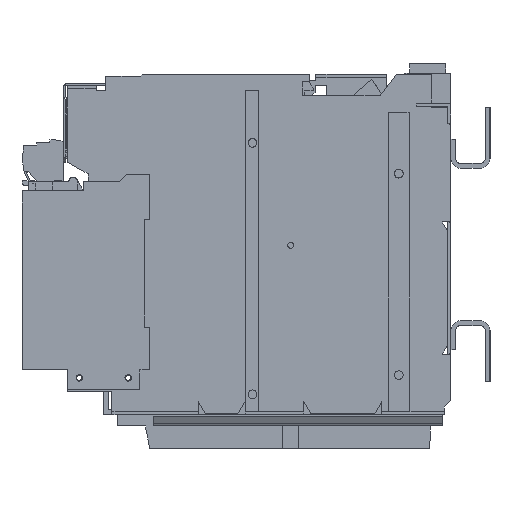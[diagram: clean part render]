
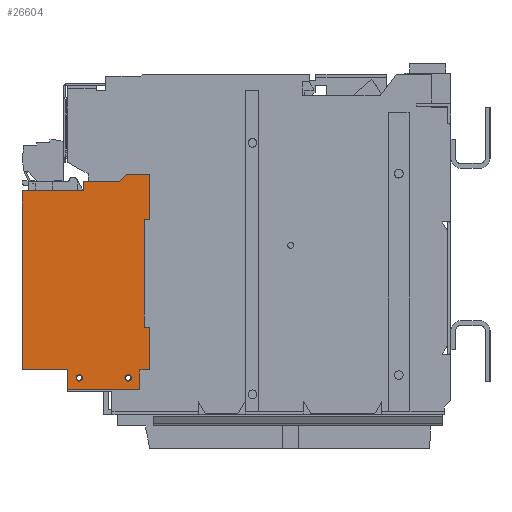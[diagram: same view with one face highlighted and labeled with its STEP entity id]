
A CAD part, left-side view. The second image highlights one B-rep face of the part: STEP entity #26604.
In plain terms, the highlighted planar face has unit normal (-1, 0, 0) as drawn and (0, 0, 1) by its records, which use the part's own axes.
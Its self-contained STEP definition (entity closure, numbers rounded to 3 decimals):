
#25985=DIRECTION('',(0.,-1.,0.));
#25986=VECTOR('',#25985,62.5);
#25987=CARTESIAN_POINT('',(92.95,62.5,0.));
#25988=LINE('',#25987,#25986);
#25989=DIRECTION('',(1.,0.,0.));
#25990=VECTOR('',#25989,10.);
#25991=CARTESIAN_POINT('',(92.95,0.,0.));
#25992=LINE('',#25991,#25990);
#25993=DIRECTION('',(0.,-1.,0.));
#25994=VECTOR('',#25993,37.);
#25995=CARTESIAN_POINT('',(102.95,0.,0.));
#25996=LINE('',#25995,#25994);
#25997=DIRECTION('',(0.722,-0.692,0.));
#25998=VECTOR('',#25997,10.114);
#25999=CARTESIAN_POINT('',(102.95,-37.,0.));
#26000=LINE('',#25999,#25998);
#26001=DIRECTION('',(0.,-1.,0.));
#26002=VECTOR('',#26001,24.);
#26003=CARTESIAN_POINT('',(110.25,-44.,0.));
#26004=LINE('',#26003,#26002);
#26005=DIRECTION('',(-1.,0.,0.));
#26006=VECTOR('',#26005,46.5);
#26007=CARTESIAN_POINT('',(110.25,-68.,0.));
#26008=LINE('',#26007,#26006);
#26009=DIRECTION('',(0.,1.,0.));
#26010=VECTOR('',#26009,5.5);
#26011=CARTESIAN_POINT('',(63.75,-68.,0.));
#26012=LINE('',#26011,#26010);
#26013=DIRECTION('',(-1.,0.,0.));
#26014=VECTOR('',#26013,110.);
#26015=CARTESIAN_POINT('',(63.75,-62.5,0.));
#26016=LINE('',#26015,#26014);
#26017=DIRECTION('',(0.,-1.,0.));
#26018=VECTOR('',#26017,5.5);
#26019=CARTESIAN_POINT('',(-46.25,-62.5,0.));
#26020=LINE('',#26019,#26018);
#26021=DIRECTION('',(-1.,0.,0.));
#26022=VECTOR('',#26021,43.8);
#26023=CARTESIAN_POINT('',(-46.25,-68.,0.));
#26024=LINE('',#26023,#26022);
#26025=DIRECTION('',(0.,1.,0.));
#26026=VECTOR('',#26025,10.);
#26027=CARTESIAN_POINT('',(-90.05,-68.,0.));
#26028=LINE('',#26027,#26026);
#26029=DIRECTION('',(-1.,0.,0.));
#26030=VECTOR('',#26029,20.2);
#26031=CARTESIAN_POINT('',(-90.05,-58.,0.));
#26032=LINE('',#26031,#26030);
#26033=DIRECTION('',(0.,1.,0.));
#26034=VECTOR('',#26033,74.);
#26035=CARTESIAN_POINT('',(-110.25,-58.,0.));
#26036=LINE('',#26035,#26034);
#26037=DIRECTION('',(1.,0.,0.));
#26038=VECTOR('',#26037,20.2);
#26039=CARTESIAN_POINT('',(-110.25,16.,0.));
#26040=LINE('',#26039,#26038);
#26041=DIRECTION('',(0.,1.,0.));
#26042=VECTOR('',#26041,46.5);
#26043=CARTESIAN_POINT('',(-90.05,16.,0.));
#26044=LINE('',#26043,#26042);
#26045=DIRECTION('',(1.,0.,0.));
#26046=VECTOR('',#26045,183.);
#26047=CARTESIAN_POINT('',(-90.05,62.5,0.));
#26048=LINE('',#26047,#26046);
#26049=CARTESIAN_POINT('',(-98.25,4.,0.));
#26050=DIRECTION('',(0.,0.,-1.));
#26051=DIRECTION('',(-1.,0.,0.));
#26052=AXIS2_PLACEMENT_3D('',#26049,#26050,#26051);
#26054=CARTESIAN_POINT('',(-98.25,4.,0.));
#26055=DIRECTION('',(0.,0.,-1.));
#26056=DIRECTION('',(1.,0.,0.));
#26057=AXIS2_PLACEMENT_3D('',#26054,#26055,#26056);
#26059=CARTESIAN_POINT('',(-98.25,-46.,0.));
#26060=DIRECTION('',(0.,0.,-1.));
#26061=DIRECTION('',(-1.,0.,0.));
#26062=AXIS2_PLACEMENT_3D('',#26059,#26060,#26061);
#26064=CARTESIAN_POINT('',(-98.25,-46.,0.));
#26065=DIRECTION('',(0.,0.,-1.));
#26066=DIRECTION('',(1.,0.,0.));
#26067=AXIS2_PLACEMENT_3D('',#26064,#26065,#26066);
#26413=CARTESIAN_POINT('',(92.95,62.5,0.));
#26414=CARTESIAN_POINT('',(92.95,0.,0.));
#26415=VERTEX_POINT('',#26413);
#26416=VERTEX_POINT('',#26414);
#26417=CARTESIAN_POINT('',(102.95,0.,0.));
#26418=VERTEX_POINT('',#26417);
#26419=CARTESIAN_POINT('',(102.95,-37.,0.));
#26420=VERTEX_POINT('',#26419);
#26421=CARTESIAN_POINT('',(110.25,-44.,0.));
#26422=VERTEX_POINT('',#26421);
#26423=CARTESIAN_POINT('',(110.25,-68.,0.));
#26424=VERTEX_POINT('',#26423);
#26425=CARTESIAN_POINT('',(63.75,-68.,0.));
#26426=VERTEX_POINT('',#26425);
#26427=CARTESIAN_POINT('',(63.75,-62.5,0.));
#26428=VERTEX_POINT('',#26427);
#26429=CARTESIAN_POINT('',(-46.25,-62.5,0.));
#26430=VERTEX_POINT('',#26429);
#26431=CARTESIAN_POINT('',(-46.25,-68.,0.));
#26432=VERTEX_POINT('',#26431);
#26433=CARTESIAN_POINT('',(-90.05,-68.,0.));
#26434=VERTEX_POINT('',#26433);
#26435=CARTESIAN_POINT('',(-90.05,-58.,0.));
#26436=VERTEX_POINT('',#26435);
#26437=CARTESIAN_POINT('',(-110.25,-58.,0.));
#26438=VERTEX_POINT('',#26437);
#26439=CARTESIAN_POINT('',(-110.25,16.,0.));
#26440=VERTEX_POINT('',#26439);
#26441=CARTESIAN_POINT('',(-90.05,16.,0.));
#26442=VERTEX_POINT('',#26441);
#26443=CARTESIAN_POINT('',(-90.05,62.5,0.));
#26444=VERTEX_POINT('',#26443);
#26537=CARTESIAN_POINT('',(-101.5,4.,0.));
#26538=CARTESIAN_POINT('',(-95.,4.,0.));
#26539=VERTEX_POINT('',#26537);
#26540=VERTEX_POINT('',#26538);
#26541=CARTESIAN_POINT('',(-101.5,-46.,0.));
#26542=CARTESIAN_POINT('',(-95.,-46.,0.));
#26543=VERTEX_POINT('',#26541);
#26544=VERTEX_POINT('',#26542);
#26553=CARTESIAN_POINT('',(0.,0.,0.));
#26554=DIRECTION('',(0.,0.,-1.));
#26555=DIRECTION('',(0.,1.,0.));
#26556=AXIS2_PLACEMENT_3D('',#26553,#26554,#26555);
#26557=PLANE('',#26556);
#26559=ORIENTED_EDGE('',*,*,#26558,.T.);
#26561=ORIENTED_EDGE('',*,*,#26560,.T.);
#26563=ORIENTED_EDGE('',*,*,#26562,.T.);
#26565=ORIENTED_EDGE('',*,*,#26564,.T.);
#26567=ORIENTED_EDGE('',*,*,#26566,.T.);
#26569=ORIENTED_EDGE('',*,*,#26568,.T.);
#26571=ORIENTED_EDGE('',*,*,#26570,.T.);
#26573=ORIENTED_EDGE('',*,*,#26572,.T.);
#26575=ORIENTED_EDGE('',*,*,#26574,.T.);
#26577=ORIENTED_EDGE('',*,*,#26576,.T.);
#26579=ORIENTED_EDGE('',*,*,#26578,.T.);
#26581=ORIENTED_EDGE('',*,*,#26580,.T.);
#26583=ORIENTED_EDGE('',*,*,#26582,.T.);
#26585=ORIENTED_EDGE('',*,*,#26584,.T.);
#26587=ORIENTED_EDGE('',*,*,#26586,.T.);
#26589=ORIENTED_EDGE('',*,*,#26588,.T.);
#26590=EDGE_LOOP('',(#26559,#26561,#26563,#26565,#26567,#26569,#26571,#26573,
#26575,#26577,#26579,#26581,#26583,#26585,#26587,#26589));
#26591=FACE_OUTER_BOUND('',#26590,.F.);
#26593=ORIENTED_EDGE('',*,*,#26592,.F.);
#26595=ORIENTED_EDGE('',*,*,#26594,.F.);
#26596=EDGE_LOOP('',(#26593,#26595));
#26597=FACE_BOUND('',#26596,.F.);
#26599=ORIENTED_EDGE('',*,*,#26598,.F.);
#26601=ORIENTED_EDGE('',*,*,#26600,.F.);
#26602=EDGE_LOOP('',(#26599,#26601));
#26603=FACE_BOUND('',#26602,.F.);
#26604=ADVANCED_FACE('',(#26591,#26597,#26603),#26557,.F.);
#26053=CIRCLE('',#26052,3.25);
#26058=CIRCLE('',#26057,3.25);
#26063=CIRCLE('',#26062,3.25);
#26068=CIRCLE('',#26067,3.25);
#26558=EDGE_CURVE('',#26415,#26416,#25988,.T.);
#26560=EDGE_CURVE('',#26416,#26418,#25992,.T.);
#26562=EDGE_CURVE('',#26418,#26420,#25996,.T.);
#26564=EDGE_CURVE('',#26420,#26422,#26000,.T.);
#26566=EDGE_CURVE('',#26422,#26424,#26004,.T.);
#26568=EDGE_CURVE('',#26424,#26426,#26008,.T.);
#26570=EDGE_CURVE('',#26426,#26428,#26012,.T.);
#26572=EDGE_CURVE('',#26428,#26430,#26016,.T.);
#26574=EDGE_CURVE('',#26430,#26432,#26020,.T.);
#26576=EDGE_CURVE('',#26432,#26434,#26024,.T.);
#26578=EDGE_CURVE('',#26434,#26436,#26028,.T.);
#26580=EDGE_CURVE('',#26436,#26438,#26032,.T.);
#26582=EDGE_CURVE('',#26438,#26440,#26036,.T.);
#26584=EDGE_CURVE('',#26440,#26442,#26040,.T.);
#26586=EDGE_CURVE('',#26442,#26444,#26044,.T.);
#26588=EDGE_CURVE('',#26444,#26415,#26048,.T.);
#26592=EDGE_CURVE('',#26539,#26540,#26053,.T.);
#26594=EDGE_CURVE('',#26540,#26539,#26058,.T.);
#26598=EDGE_CURVE('',#26543,#26544,#26063,.T.);
#26600=EDGE_CURVE('',#26544,#26543,#26068,.T.);
